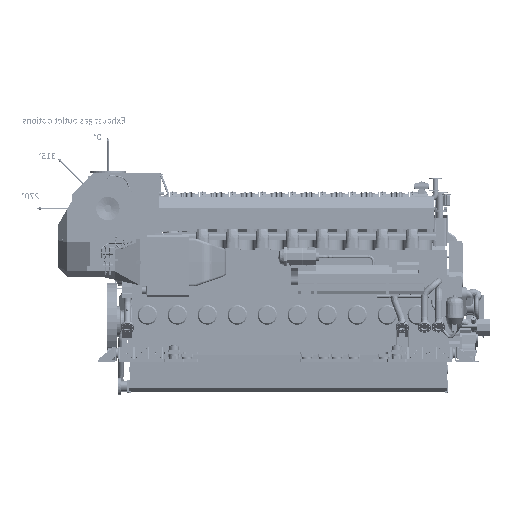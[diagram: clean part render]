
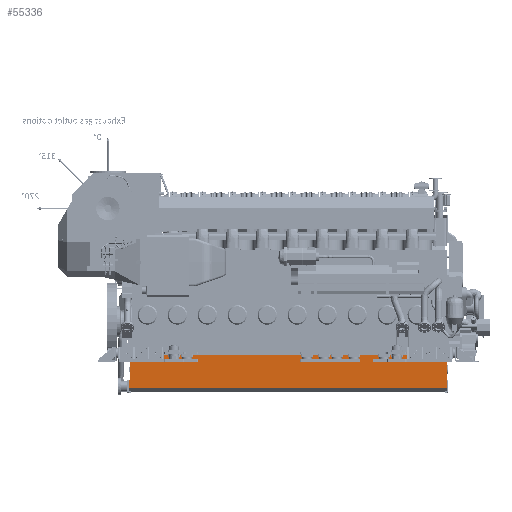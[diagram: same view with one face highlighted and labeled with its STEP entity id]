
A CAD part, front view. The second image highlights one B-rep face of the part: STEP entity #55336.
In plain terms, the highlighted planar face has unit normal (0, -0.999, -0.052).
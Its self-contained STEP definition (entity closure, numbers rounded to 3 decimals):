
#32101=PLANE('',#358084);
#55336=ADVANCED_FACE('',(#77020),#32101,.T.);
#77020=FACE_OUTER_BOUND('',#93423,.T.);
#93423=EDGE_LOOP('',(#179708,#179709,#179710,#179711,#179712,#179713));
#121104=LINE('',#499184,#149239);
#121125=LINE('',#499252,#149260);
#121143=LINE('',#499297,#149278);
#121161=LINE('',#499358,#149296);
#121170=LINE('',#499374,#149305);
#121171=LINE('',#499375,#149306);
#149239=VECTOR('',#392408,1.);
#149260=VECTOR('',#392455,1.);
#149278=VECTOR('',#392483,1.);
#149296=VECTOR('',#392529,1.);
#149305=VECTOR('',#392544,1.);
#149306=VECTOR('',#392545,1.);
#179708=ORIENTED_EDGE('',*,*,#305979,.F.);
#179709=ORIENTED_EDGE('',*,*,#306074,.F.);
#179710=ORIENTED_EDGE('',*,*,#306012,.T.);
#179711=ORIENTED_EDGE('',*,*,#306065,.T.);
#179712=ORIENTED_EDGE('',*,*,#306034,.F.);
#179713=ORIENTED_EDGE('',*,*,#306075,.F.);
#272939=VERTEX_POINT('',#499185);
#272940=VERTEX_POINT('',#499186);
#272972=VERTEX_POINT('',#499251);
#272973=VERTEX_POINT('',#499253);
#272983=VERTEX_POINT('',#499275);
#272994=VERTEX_POINT('',#499296);
#305979=EDGE_CURVE('',#272939,#272940,#121104,.T.);
#306012=EDGE_CURVE('',#272973,#272972,#121125,.T.);
#306034=EDGE_CURVE('',#272994,#272983,#121143,.T.);
#306065=EDGE_CURVE('',#272972,#272983,#121161,.T.);
#306074=EDGE_CURVE('',#272973,#272939,#121170,.T.);
#306075=EDGE_CURVE('',#272940,#272994,#121171,.T.);
#358084=AXIS2_PLACEMENT_3D('',#499376,#392546,#392547);
#392408=DIRECTION('',(0.,-0.052,0.999));
#392455=DIRECTION('',(0.,0.052,-0.999));
#392483=DIRECTION('',(0.,0.052,-0.999));
#392529=DIRECTION('',(1.,0.,0.));
#392544=DIRECTION('',(1.,0.,0.));
#392545=DIRECTION('',(1.,0.,0.));
#392546=DIRECTION('',(0.,-0.999,-0.052));
#392547=DIRECTION('',(0.,0.052,-0.999));
#499184=CARTESIAN_POINT('',(-5180.,-438.25,-545.));
#499185=CARTESIAN_POINT('',(-5180.,-417.179,-950.));
#499186=CARTESIAN_POINT('',(-5180.,-438.25,-545.));
#499251=CARTESIAN_POINT('',(-5200.,-410.5,-1078.395));
#499252=CARTESIAN_POINT('',(-5200.,-438.25,-545.));
#499253=CARTESIAN_POINT('',(-5200.,-417.179,-950.));
#499275=CARTESIAN_POINT('',(0.,-410.5,-1078.395));
#499296=CARTESIAN_POINT('',(0.,-438.25,-545.));
#499297=CARTESIAN_POINT('',(0.,-438.25,-545.));
#499358=CARTESIAN_POINT('',(-5200.,-410.5,-1078.395));
#499374=CARTESIAN_POINT('',(-5200.,-417.179,-950.));
#499375=CARTESIAN_POINT('',(-5200.,-438.25,-545.));
#499376=CARTESIAN_POINT('',(-5200.,-438.25,-545.));
